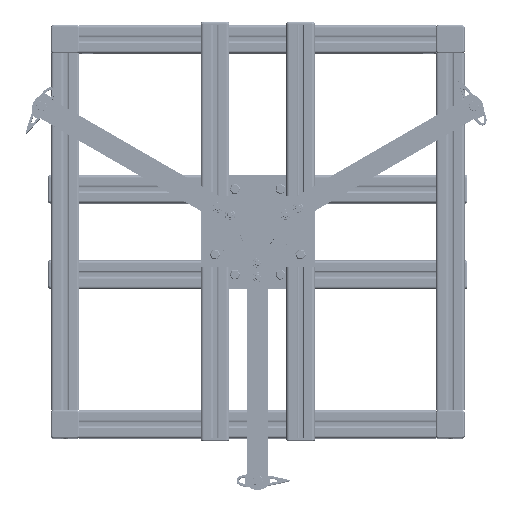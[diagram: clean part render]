
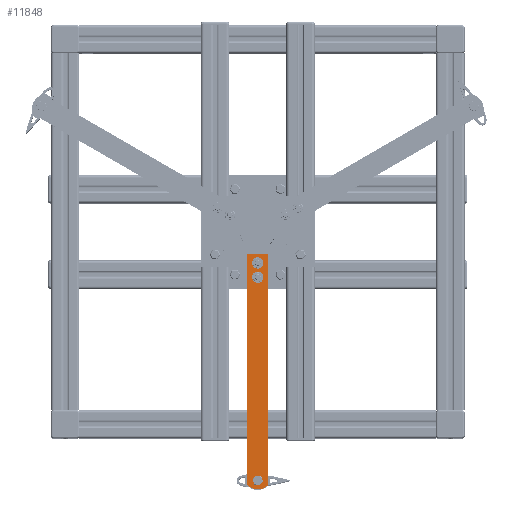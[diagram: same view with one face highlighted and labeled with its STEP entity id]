
A CAD part, top view. The second image highlights one B-rep face of the part: STEP entity #11848.
In plain terms, the highlighted planar face has unit normal (0, 0, 1).
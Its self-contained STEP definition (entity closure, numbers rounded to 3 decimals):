
#8206=PLANE('',#27952);
#8939=LINE('',#37583,#10420);
#8943=LINE('',#37603,#10424);
#8944=LINE('',#37605,#10425);
#8945=LINE('',#37609,#10426);
#10420=VECTOR('',#31472,1.);
#10424=VECTOR('',#31492,1.);
#10425=VECTOR('',#31493,1.);
#10426=VECTOR('',#31496,1.);
#11848=ADVANCED_FACE('',(#13464,#13465,#13466,#13467),#8206,.T.);
#13464=FACE_BOUND('',#14223,.T.);
#13465=FACE_BOUND('',#14224,.T.);
#13466=FACE_BOUND('',#14225,.T.);
#13467=FACE_BOUND('',#14226,.T.);
#14223=EDGE_LOOP('',(#16635,#16636,#16637,#16638,#16639,#16640));
#14224=EDGE_LOOP('',(#16641));
#14225=EDGE_LOOP('',(#16642));
#14226=EDGE_LOOP('',(#16643));
#16635=ORIENTED_EDGE('',*,*,#23163,.F.);
#16636=ORIENTED_EDGE('',*,*,#23154,.T.);
#16637=ORIENTED_EDGE('',*,*,#23164,.T.);
#16638=ORIENTED_EDGE('',*,*,#23165,.T.);
#16639=ORIENTED_EDGE('',*,*,#23166,.F.);
#16640=ORIENTED_EDGE('',*,*,#23167,.T.);
#16641=ORIENTED_EDGE('',*,*,#23168,.F.);
#16642=ORIENTED_EDGE('',*,*,#23169,.F.);
#16643=ORIENTED_EDGE('',*,*,#23170,.T.);
#21082=VERTEX_POINT('',#37578);
#21084=VERTEX_POINT('',#37582);
#21092=VERTEX_POINT('',#37602);
#21093=VERTEX_POINT('',#37604);
#21094=VERTEX_POINT('',#37606);
#21095=VERTEX_POINT('',#37608);
#21096=VERTEX_POINT('',#37611);
#21097=VERTEX_POINT('',#37613);
#21098=VERTEX_POINT('',#37615);
#23154=EDGE_CURVE('',#21082,#21084,#8939,.T.);
#23163=EDGE_CURVE('',#21082,#21092,#25465,.T.);
#23164=EDGE_CURVE('',#21084,#21093,#8943,.T.);
#23165=EDGE_CURVE('',#21093,#21094,#8944,.T.);
#23166=EDGE_CURVE('',#21095,#21094,#25466,.T.);
#23167=EDGE_CURVE('',#21095,#21092,#8945,.T.);
#23168=EDGE_CURVE('',#21096,#21096,#25467,.T.);
#23169=EDGE_CURVE('',#21097,#21097,#25468,.T.);
#23170=EDGE_CURVE('',#21098,#21098,#25469,.T.);
#25465=CIRCLE('',#27947,20.79);
#25466=CIRCLE('',#27948,20.79);
#25467=CIRCLE('',#27949,4.25);
#25468=CIRCLE('',#27950,4.25);
#25469=CIRCLE('',#27951,4.25);
#27947=AXIS2_PLACEMENT_3D('',#37601,#31490,#31491);
#27948=AXIS2_PLACEMENT_3D('',#37607,#31494,#31495);
#27949=AXIS2_PLACEMENT_3D('',#37610,#31497,#31498);
#27950=AXIS2_PLACEMENT_3D('',#37612,#31499,#31500);
#27951=AXIS2_PLACEMENT_3D('',#37614,#31501,#31502);
#27952=AXIS2_PLACEMENT_3D('',#37616,#31503,#31504);
#31472=DIRECTION('',(0.,-1.,0.));
#31490=DIRECTION('',(0.,0.,-1.));
#31491=DIRECTION('',(0.,1.,0.));
#31492=DIRECTION('',(1.,0.,0.));
#31493=DIRECTION('',(0.,1.,0.));
#31494=DIRECTION('',(0.,0.,-1.));
#31495=DIRECTION('',(0.,1.,0.));
#31496=DIRECTION('',(-1.,0.,0.));
#31497=DIRECTION('',(0.,0.,1.));
#31498=DIRECTION('',(1.,0.,0.));
#31499=DIRECTION('',(0.,0.,1.));
#31500=DIRECTION('',(1.,0.,0.));
#31501=DIRECTION('',(0.,0.,-1.));
#31502=DIRECTION('',(1.,0.,0.));
#31503=DIRECTION('',(0.,0.,1.));
#31504=DIRECTION('',(-1.,0.,0.));
#37578=CARTESIAN_POINT('',(-15.,323.505,2.));
#37582=CARTESIAN_POINT('',(-15.,0.,2.));
#37583=CARTESIAN_POINT('',(-15.,330.,2.));
#37601=CARTESIAN_POINT('',(0.096,309.21,2.));
#37602=CARTESIAN_POINT('',(0.,330.,2.));
#37603=CARTESIAN_POINT('',(-15.,0.,2.));
#37604=CARTESIAN_POINT('',(15.,0.,2.));
#37605=CARTESIAN_POINT('',(15.,0.,2.));
#37606=CARTESIAN_POINT('',(15.,323.705,2.));
#37607=CARTESIAN_POINT('',(0.096,309.21,2.));
#37608=CARTESIAN_POINT('',(0.192,330.,2.));
#37609=CARTESIAN_POINT('',(15.,330.,2.));
#37610=CARTESIAN_POINT('',(0.,32.5,2.));
#37611=CARTESIAN_POINT('',(4.25,32.5,2.));
#37612=CARTESIAN_POINT('',(0.,12.5,2.));
#37613=CARTESIAN_POINT('',(4.25,12.5,2.));
#37614=CARTESIAN_POINT('',(0.,317.5,2.));
#37615=CARTESIAN_POINT('',(4.25,317.5,2.));
#37616=CARTESIAN_POINT('',(0.,0.,2.));
